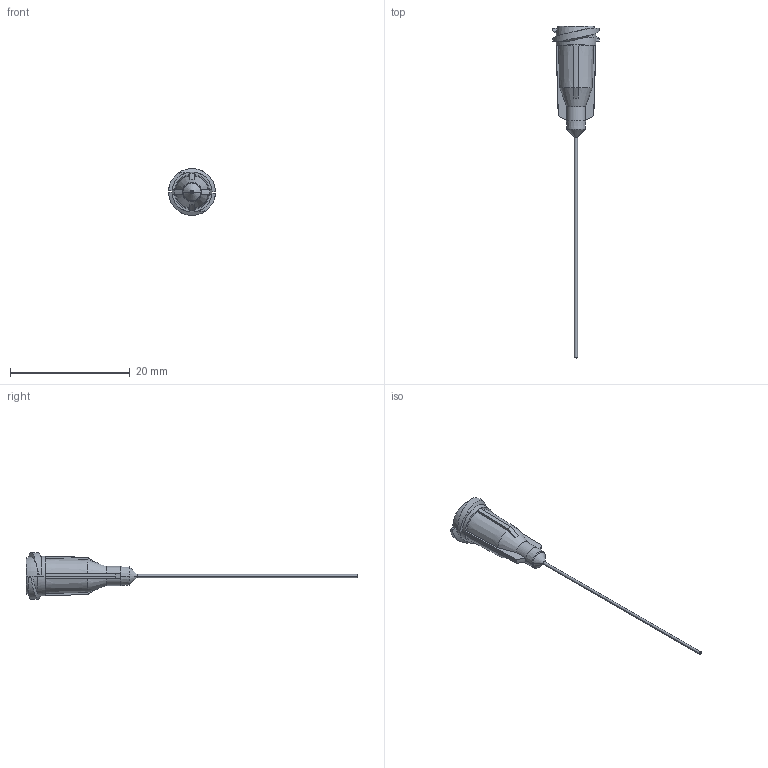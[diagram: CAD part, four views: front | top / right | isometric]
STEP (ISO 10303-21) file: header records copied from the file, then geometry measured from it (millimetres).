
FILE_DESCRIPTION (( 'STEP AP214' ), '1' );
FILE_NAME ('NORDSONEFD-7018338 TIP 25GA GP 010 X 15 RD.STEP', '2018-12-16T05:37:10', ( '' ), ( '' ), 'SwSTEP 2.0', 'SolidWorks 2018', '' );
FILE_SCHEMA (( 'AUTOMOTIVE_DESIGN' ));
Length unit declared in the file: inch
Products named in the file (1): NORDSONEFD-7018338 TIP 25GA GP 010 X 15 RD
Bounding box: 7.82 x 55.47 x 7.82 mm (x, y, z)
Volume: 270.7 mm3; surface area: 628.3 mm2
Topology: 1 solids, 1 shells, 98 faces, 228 edges, 136 vertices
Faces by surface type: plane 26, torus 22, cone 22, cylinder 16, bspline 12
Entity records: 3320 total; most frequent: CARTESIAN_POINT 997, DIRECTION 460, ORIENTED_EDGE 456, EDGE_CURVE 228, AXIS2_PLACEMENT_3D 201, VERTEX_POINT 136, CIRCLE 114, EDGE_LOOP 104
